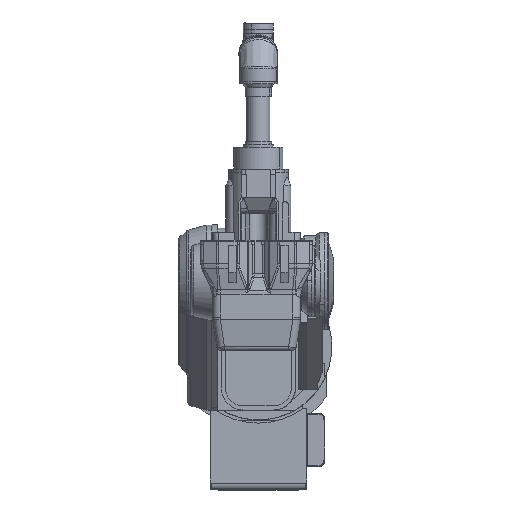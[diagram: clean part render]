
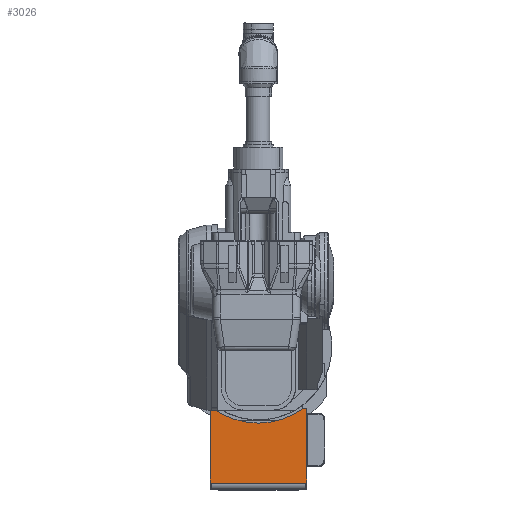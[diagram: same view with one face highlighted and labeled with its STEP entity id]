
A CAD part, top view. The second image highlights one B-rep face of the part: STEP entity #3026.
In plain terms, the highlighted planar face has unit normal (0, 0, -1).
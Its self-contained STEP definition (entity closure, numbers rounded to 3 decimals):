
#2939=CARTESIAN_POINT('Axis2P3D Location',(185.,-549.7,340.)) ;
#2944=CARTESIAN_POINT('Line Origine',(-181.,-526.6,340.)) ;
#2948=CARTESIAN_POINT('Vertex',(-181.,-528.5,340.)) ;
#2950=CARTESIAN_POINT('Vertex',(-181.,-524.7,340.)) ;
#2953=CARTESIAN_POINT('Line Origine',(-183.,-524.7,340.)) ;
#2957=CARTESIAN_POINT('Vertex',(-185.,-524.7,340.)) ;
#2960=CARTESIAN_POINT('Line Origine',(-185.,-382.2,340.)) ;
#2964=CARTESIAN_POINT('Vertex',(-185.,-239.7,340.)) ;
#2967=CARTESIAN_POINT('Line Origine',(-178.269,-239.7,340.)) ;
#2971=CARTESIAN_POINT('Vertex',(-171.537,-239.7,340.)) ;
#2974=CARTESIAN_POINT('Axis2P3D Location',(0.,0.3,340.)) ;
#2978=CARTESIAN_POINT('Vertex',(171.537,-239.7,340.)) ;
#2981=CARTESIAN_POINT('Line Origine',(178.269,-239.7,340.)) ;
#2985=CARTESIAN_POINT('Vertex',(185.,-239.7,340.)) ;
#2988=CARTESIAN_POINT('Line Origine',(185.,-382.2,340.)) ;
#2992=CARTESIAN_POINT('Vertex',(185.,-524.7,340.)) ;
#2995=CARTESIAN_POINT('Line Origine',(183.,-524.7,340.)) ;
#2999=CARTESIAN_POINT('Vertex',(181.,-524.7,340.)) ;
#3002=CARTESIAN_POINT('Line Origine',(181.,-526.6,340.)) ;
#3006=CARTESIAN_POINT('Vertex',(181.,-528.5,340.)) ;
#3009=CARTESIAN_POINT('Line Origine',(0.,-528.5,340.)) ;
#2940=DIRECTION('Axis2P3D Direction',(0.,0.,-1.)) ;
#2941=DIRECTION('Axis2P3D XDirection',(-1.,0.,0.)) ;
#2945=DIRECTION('Vector Direction',(0.,1.,0.)) ;
#2954=DIRECTION('Vector Direction',(1.,0.,0.)) ;
#2961=DIRECTION('Vector Direction',(0.,1.,0.)) ;
#2968=DIRECTION('Vector Direction',(-1.,0.,0.)) ;
#2975=DIRECTION('Axis2P3D Direction',(0.,0.,-1.)) ;
#2982=DIRECTION('Vector Direction',(-1.,0.,0.)) ;
#2989=DIRECTION('Vector Direction',(0.,1.,0.)) ;
#2996=DIRECTION('Vector Direction',(1.,0.,0.)) ;
#3003=DIRECTION('Vector Direction',(0.,-1.,0.)) ;
#3010=DIRECTION('Vector Direction',(1.,0.,0.)) ;
#2942=AXIS2_PLACEMENT_3D('Plane Axis2P3D',#2939,#2940,#2941) ;
#2976=AXIS2_PLACEMENT_3D('Circle Axis2P3D',#2974,#2975,$) ;
#3015=ORIENTED_EDGE('',*,*,#2952,.T.) ;
#3016=ORIENTED_EDGE('',*,*,#2959,.T.) ;
#3017=ORIENTED_EDGE('',*,*,#2966,.T.) ;
#3018=ORIENTED_EDGE('',*,*,#2973,.F.) ;
#3019=ORIENTED_EDGE('',*,*,#2980,.T.) ;
#3020=ORIENTED_EDGE('',*,*,#2987,.F.) ;
#3021=ORIENTED_EDGE('',*,*,#2994,.F.) ;
#3022=ORIENTED_EDGE('',*,*,#3001,.T.) ;
#3023=ORIENTED_EDGE('',*,*,#3008,.T.) ;
#3024=ORIENTED_EDGE('',*,*,#3013,.T.) ;
#2946=VECTOR('Line Direction',#2945,1.) ;
#2955=VECTOR('Line Direction',#2954,1.) ;
#2962=VECTOR('Line Direction',#2961,1.) ;
#2969=VECTOR('Line Direction',#2968,1.) ;
#2983=VECTOR('Line Direction',#2982,1.) ;
#2990=VECTOR('Line Direction',#2989,1.) ;
#2997=VECTOR('Line Direction',#2996,1.) ;
#3004=VECTOR('Line Direction',#3003,1.) ;
#3011=VECTOR('Line Direction',#3010,1.) ;
#3026=ADVANCED_FACE('\X2\FF7BFF70FF8CFF6AFF7D\X0\.4',(#3025),#2943,.T.) ;
#2977=CIRCLE('generated circle',#2976,295.) ;
#2952=EDGE_CURVE('',#2949,#2951,#2947,.T.) ;
#2959=EDGE_CURVE('',#2951,#2958,#2956,.F.) ;
#2966=EDGE_CURVE('',#2958,#2965,#2963,.T.) ;
#2973=EDGE_CURVE('',#2972,#2965,#2970,.T.) ;
#2980=EDGE_CURVE('',#2972,#2979,#2977,.F.) ;
#2987=EDGE_CURVE('',#2986,#2979,#2984,.T.) ;
#2994=EDGE_CURVE('',#2993,#2986,#2991,.T.) ;
#3001=EDGE_CURVE('',#2993,#3000,#2998,.F.) ;
#3008=EDGE_CURVE('',#3000,#3007,#3005,.T.) ;
#3013=EDGE_CURVE('',#3007,#2949,#3012,.F.) ;
#3014=EDGE_LOOP('',(#3015,#3016,#3017,#3018,#3019,#3020,#3021,#3022,#3023,#3024)) ;
#3025=FACE_OUTER_BOUND('',#3014,.T.) ;
#2947=LINE('Line',#2944,#2946) ;
#2956=LINE('Line',#2953,#2955) ;
#2963=LINE('Line',#2960,#2962) ;
#2970=LINE('Line',#2967,#2969) ;
#2984=LINE('Line',#2981,#2983) ;
#2991=LINE('Line',#2988,#2990) ;
#2998=LINE('Line',#2995,#2997) ;
#3005=LINE('Line',#3002,#3004) ;
#3012=LINE('Line',#3009,#3011) ;
#2943=PLANE('',#2942) ;
#2949=VERTEX_POINT('',#2948) ;
#2951=VERTEX_POINT('',#2950) ;
#2958=VERTEX_POINT('',#2957) ;
#2965=VERTEX_POINT('',#2964) ;
#2972=VERTEX_POINT('',#2971) ;
#2979=VERTEX_POINT('',#2978) ;
#2986=VERTEX_POINT('',#2985) ;
#2993=VERTEX_POINT('',#2992) ;
#3000=VERTEX_POINT('',#2999) ;
#3007=VERTEX_POINT('',#3006) ;
